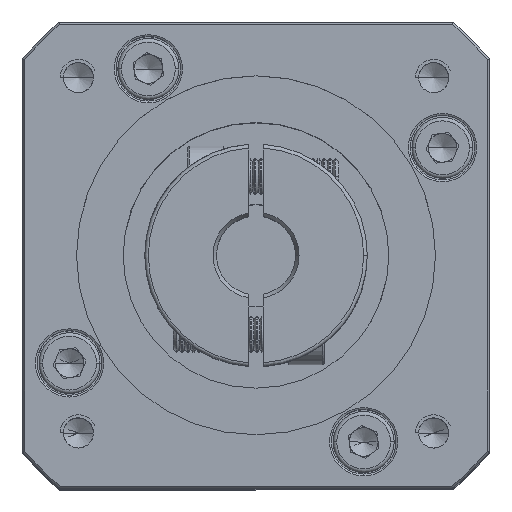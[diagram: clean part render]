
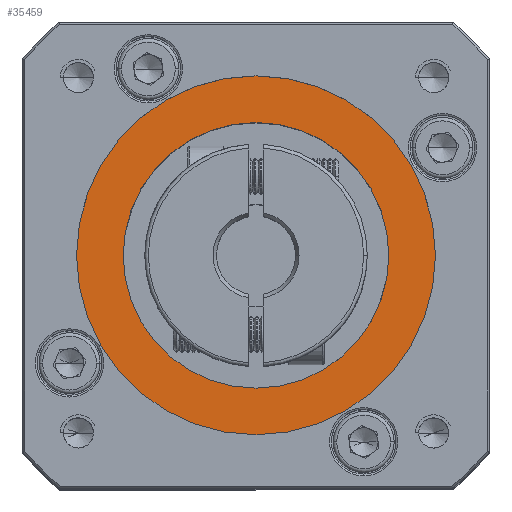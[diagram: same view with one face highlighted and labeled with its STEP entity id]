
A CAD part, top view. The second image highlights one B-rep face of the part: STEP entity #35459.
In plain terms, the highlighted planar face has unit normal (0, 0, 1).
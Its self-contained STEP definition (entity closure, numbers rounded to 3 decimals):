
#227 = AXIS2_PLACEMENT_3D ( 'NONE', #57088, #107699, #74833 ) ;
#641 = DIRECTION ( 'NONE',  ( 0., 0., 1. ) ) ;
#2084 = EDGE_CURVE ( 'NONE', #61368, #105527, #23163, .T. ) ;
#8272 = AXIS2_PLACEMENT_3D ( 'NONE', #21185, #80211, #29665 ) ;
#9255 = CARTESIAN_POINT ( 'NONE',  ( -70.559, 38.277, 30.705 ) ) ;
#10966 = EDGE_CURVE ( 'NONE', #105527, #61368, #59470, .T. ) ;
#11908 = FACE_BOUND ( 'NONE', #79612, .T. ) ;
#14160 = DIRECTION ( 'NONE',  ( 0., 0., 1. ) ) ;
#15786 = CIRCLE ( 'NONE', #8272, 25. ) ;
#17749 = DIRECTION ( 'NONE',  ( 1., 0., 0. ) ) ;
#21185 = CARTESIAN_POINT ( 'NONE',  ( -70.559, 38.277, 30.705 ) ) ;
#23163 = CIRCLE ( 'NONE', #227, 18.5 ) ;
#28078 = AXIS2_PLACEMENT_3D ( 'NONE', #51112, #641, #59592 ) ;
#29665 = DIRECTION ( 'NONE',  ( 1., 0., 0. ) ) ;
#33000 = ORIENTED_EDGE ( 'NONE', *, *, #49307, .T. ) ;
#35459 = ADVANCED_FACE ( 'NONE', ( #54081, #11908 ), #47332, .T. ) ;
#36835 = CARTESIAN_POINT ( 'NONE',  ( -89.059, 38.277, 30.705 ) ) ;
#39754 = VERTEX_POINT ( 'NONE', #83482 ) ;
#45968 = AXIS2_PLACEMENT_3D ( 'NONE', #64645, #14160, #73148 ) ;
#47332 = PLANE ( 'NONE',  #45968 ) ;
#49307 = EDGE_CURVE ( 'NONE', #39754, #107269, #15786, .T. ) ;
#50466 = ORIENTED_EDGE ( 'NONE', *, *, #10966, .T. ) ;
#51112 = CARTESIAN_POINT ( 'NONE',  ( -70.559, 38.277, 30.705 ) ) ;
#52575 = EDGE_LOOP ( 'NONE', ( #33000, #95482 ) ) ;
#54081 = FACE_OUTER_BOUND ( 'NONE', #52575, .T. ) ;
#57088 = CARTESIAN_POINT ( 'NONE',  ( -70.559, 38.277, 30.705 ) ) ;
#59470 = CIRCLE ( 'NONE', #68315, 18.5 ) ;
#59545 = CARTESIAN_POINT ( 'NONE',  ( -52.059, 38.277, 30.705 ) ) ;
#59592 = DIRECTION ( 'NONE',  ( 1., 0., 0. ) ) ;
#60667 = CIRCLE ( 'NONE', #28078, 25. ) ;
#61368 = VERTEX_POINT ( 'NONE', #36835 ) ;
#64645 = CARTESIAN_POINT ( 'NONE',  ( -70.559, 38.277, 30.705 ) ) ;
#68188 = DIRECTION ( 'NONE',  ( 0., 0., -1. ) ) ;
#68315 = AXIS2_PLACEMENT_3D ( 'NONE', #9255, #68188, #17749 ) ;
#73148 = DIRECTION ( 'NONE',  ( 1., 0., 0. ) ) ;
#74833 = DIRECTION ( 'NONE',  ( 1., 0., 0. ) ) ;
#76442 = CARTESIAN_POINT ( 'NONE',  ( -95.559, 38.277, 30.705 ) ) ;
#79612 = EDGE_LOOP ( 'NONE', ( #50466, #108306 ) ) ;
#80211 = DIRECTION ( 'NONE',  ( 0., 0., 1. ) ) ;
#82828 = EDGE_CURVE ( 'NONE', #107269, #39754, #60667, .T. ) ;
#83482 = CARTESIAN_POINT ( 'NONE',  ( -45.559, 38.277, 30.705 ) ) ;
#95482 = ORIENTED_EDGE ( 'NONE', *, *, #82828, .T. ) ;
#105527 = VERTEX_POINT ( 'NONE', #59545 ) ;
#107269 = VERTEX_POINT ( 'NONE', #76442 ) ;
#107699 = DIRECTION ( 'NONE',  ( 0., 0., -1. ) ) ;
#108306 = ORIENTED_EDGE ( 'NONE', *, *, #2084, .T. ) ;
